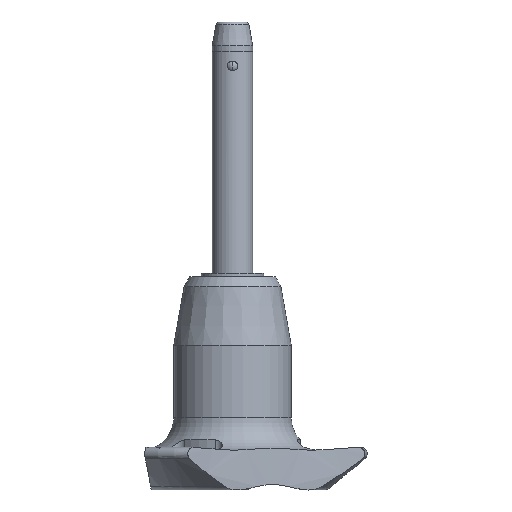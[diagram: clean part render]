
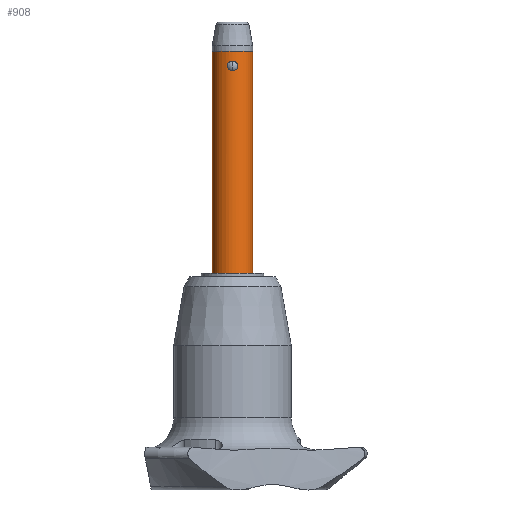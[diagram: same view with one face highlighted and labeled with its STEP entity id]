
A CAD part, front view. The second image highlights one B-rep face of the part: STEP entity #908.
In plain terms, the highlighted cylindrical face has radius 2.5 mm (diameter 5 mm), a partial arc.
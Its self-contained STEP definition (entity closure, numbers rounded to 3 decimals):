
#42 = CARTESIAN_POINT ( 'NONE',  ( 0.633, -2.419, 0.742 ) ) ;
#47 = EDGE_CURVE ( 'NONE', #702, #1409, #915, .T. ) ;
#73 = AXIS2_PLACEMENT_3D ( 'NONE', #120, #763, #2447 ) ;
#82 = FACE_BOUND ( 'NONE', #2733, .T. ) ;
#120 = CARTESIAN_POINT ( 'NONE',  ( 0., 0., -25. ) ) ;
#228 = CARTESIAN_POINT ( 'NONE',  ( 0.164, -2.5, 1.162 ) ) ;
#258 = CARTESIAN_POINT ( 'NONE',  ( 0.511, -2.448, 0.952 ) ) ;
#271 = CARTESIAN_POINT ( 'NONE',  ( -0.511, -2.448, 0.21 ) ) ;
#367 = CARTESIAN_POINT ( 'NONE',  ( 2.5, 0., 2.4 ) ) ;
#445 = CARTESIAN_POINT ( 'NONE',  ( -0.652, -2.414, 0.663 ) ) ;
#456 = CARTESIAN_POINT ( 'NONE',  ( -0.51, -2.448, 0.953 ) ) ;
#484 = ORIENTED_EDGE ( 'NONE', *, *, #1117, .F. ) ;
#517 = CARTESIAN_POINT ( 'NONE',  ( 2.5, 0., -25. ) ) ;
#698 = CIRCLE ( 'NONE', #73, 2.5 ) ;
#702 = VERTEX_POINT ( 'NONE', #1082 ) ;
#724 = EDGE_CURVE ( 'NONE', #1022, #2479, #1093, .T. ) ;
#763 = DIRECTION ( 'NONE',  ( 0., 0., -1. ) ) ;
#863 = CARTESIAN_POINT ( 'NONE',  ( 2.5, 0., -25. ) ) ;
#869 = CARTESIAN_POINT ( 'NONE',  ( 0.162, -2.5, 0. ) ) ;
#908 = ADVANCED_FACE ( 'NONE', ( #1157, #82 ), #2208, .T. ) ;
#915 = CIRCLE ( 'NONE', #2492, 2.5 ) ;
#924 = VECTOR ( 'NONE', #2518, 1000. ) ;
#933 = DIRECTION ( 'NONE',  ( 1., 0., 0. ) ) ;
#989 = LINE ( 'NONE', #1029, #924 ) ;
#1011 = CARTESIAN_POINT ( 'NONE',  ( 0., -2.5, 1.162 ) ) ;
#1022 = VERTEX_POINT ( 'NONE', #1214 ) ;
#1029 = CARTESIAN_POINT ( 'NONE',  ( -2.5, 0., -25. ) ) ;
#1082 = CARTESIAN_POINT ( 'NONE',  ( -2.5, 0., 2.4 ) ) ;
#1093 = B_SPLINE_CURVE_WITH_KNOTS ( 'NONE', 3,
 ( #1320, #869, #1527, #2605, #2154, #1728, #2180, #1307, #42, #1514, #258, #1972, #228, #2389 ),
 .UNSPECIFIED., .F., .F.,
 ( 4, 2, 2, 2, 2, 2, 4 ),
 ( 0.002, 0.002, 0.003, 0.003, 0.003, 0.003, 0.004 ),
 .UNSPECIFIED. ) ;
#1103 = CARTESIAN_POINT ( 'NONE',  ( -0.633, -2.419, 0.42 ) ) ;
#1117 = EDGE_CURVE ( 'NONE', #2479, #1022, #1651, .T. ) ;
#1157 = FACE_OUTER_BOUND ( 'NONE', #1798, .T. ) ;
#1214 = CARTESIAN_POINT ( 'NONE',  ( 0., -2.5, 0. ) ) ;
#1230 = EDGE_CURVE ( 'NONE', #2685, #1409, #1937, .T. ) ;
#1307 = CARTESIAN_POINT ( 'NONE',  ( 0.652, -2.413, 0.66 ) ) ;
#1320 = CARTESIAN_POINT ( 'NONE',  ( 0., -2.5, 0. ) ) ;
#1402 = EDGE_CURVE ( 'NONE', #2050, #702, #989, .T. ) ;
#1409 = VERTEX_POINT ( 'NONE', #367 ) ;
#1514 = CARTESIAN_POINT ( 'NONE',  ( 0.562, -2.436, 0.887 ) ) ;
#1527 = CARTESIAN_POINT ( 'NONE',  ( 0.326, -2.482, 0.055 ) ) ;
#1531 = CARTESIAN_POINT ( 'NONE',  ( -0.562, -2.436, 0.274 ) ) ;
#1623 = ORIENTED_EDGE ( 'NONE', *, *, #1402, .F. ) ;
#1651 = B_SPLINE_CURVE_WITH_KNOTS ( 'NONE', 3,
 ( #2599, #1720, #2610, #456, #1951, #1740, #445, #2582, #1103, #1531, #271, #2569, #2171, #2384 ),
 .UNSPECIFIED., .F., .F.,
 ( 4, 2, 2, 2, 2, 2, 4 ),
 ( 0., 0., 0.001, 0.001, 0.001, 0.001, 0.002 ),
 .UNSPECIFIED. ) ;
#1690 = CARTESIAN_POINT ( 'NONE',  ( -2.5, 0., -25. ) ) ;
#1720 = CARTESIAN_POINT ( 'NONE',  ( -0.164, -2.5, 1.162 ) ) ;
#1728 = CARTESIAN_POINT ( 'NONE',  ( 0.632, -2.419, 0.416 ) ) ;
#1740 = CARTESIAN_POINT ( 'NONE',  ( -0.632, -2.419, 0.744 ) ) ;
#1794 = DIRECTION ( 'NONE',  ( 0., 0., 1. ) ) ;
#1798 = EDGE_LOOP ( 'NONE', ( #1623, #2755, #2440, #2442 ) ) ;
#1824 = DIRECTION ( 'NONE',  ( 0., 0., 1. ) ) ;
#1909 = CARTESIAN_POINT ( 'NONE',  ( 0., 0., 2.4 ) ) ;
#1937 = LINE ( 'NONE', #863, #2636 ) ;
#1951 = CARTESIAN_POINT ( 'NONE',  ( -0.561, -2.436, 0.889 ) ) ;
#1972 = CARTESIAN_POINT ( 'NONE',  ( 0.327, -2.482, 1.107 ) ) ;
#2050 = VERTEX_POINT ( 'NONE', #1690 ) ;
#2154 = CARTESIAN_POINT ( 'NONE',  ( 0.561, -2.437, 0.273 ) ) ;
#2171 = CARTESIAN_POINT ( 'NONE',  ( -0.162, -2.5, 0. ) ) ;
#2180 = CARTESIAN_POINT ( 'NONE',  ( 0.652, -2.414, 0.497 ) ) ;
#2208 = CYLINDRICAL_SURFACE ( 'NONE', #2590, 2.5 ) ;
#2306 = EDGE_CURVE ( 'NONE', #2685, #2050, #698, .T. ) ;
#2384 = CARTESIAN_POINT ( 'NONE',  ( 0., -2.5, 0. ) ) ;
#2389 = CARTESIAN_POINT ( 'NONE',  ( 0., -2.5, 1.162 ) ) ;
#2440 = ORIENTED_EDGE ( 'NONE', *, *, #1230, .T. ) ;
#2442 = ORIENTED_EDGE ( 'NONE', *, *, #47, .F. ) ;
#2447 = DIRECTION ( 'NONE',  ( 1., 0., 0. ) ) ;
#2479 = VERTEX_POINT ( 'NONE', #1011 ) ;
#2492 = AXIS2_PLACEMENT_3D ( 'NONE', #1909, #2767, #2554 ) ;
#2518 = DIRECTION ( 'NONE',  ( 0., 0., 1. ) ) ;
#2554 = DIRECTION ( 'NONE',  ( 1., 0., 0. ) ) ;
#2569 = CARTESIAN_POINT ( 'NONE',  ( -0.326, -2.482, 0.054 ) ) ;
#2582 = CARTESIAN_POINT ( 'NONE',  ( -0.652, -2.413, 0.501 ) ) ;
#2590 = AXIS2_PLACEMENT_3D ( 'NONE', #2653, #1824, #933 ) ;
#2599 = CARTESIAN_POINT ( 'NONE',  ( 0., -2.5, 1.162 ) ) ;
#2605 = CARTESIAN_POINT ( 'NONE',  ( 0.509, -2.448, 0.208 ) ) ;
#2610 = CARTESIAN_POINT ( 'NONE',  ( -0.324, -2.482, 1.108 ) ) ;
#2636 = VECTOR ( 'NONE', #1794, 1000. ) ;
#2653 = CARTESIAN_POINT ( 'NONE',  ( 0., 0., -25. ) ) ;
#2685 = VERTEX_POINT ( 'NONE', #517 ) ;
#2733 = EDGE_LOOP ( 'NONE', ( #484, #2752 ) ) ;
#2752 = ORIENTED_EDGE ( 'NONE', *, *, #724, .F. ) ;
#2755 = ORIENTED_EDGE ( 'NONE', *, *, #2306, .F. ) ;
#2767 = DIRECTION ( 'NONE',  ( 0., 0., 1. ) ) ;
